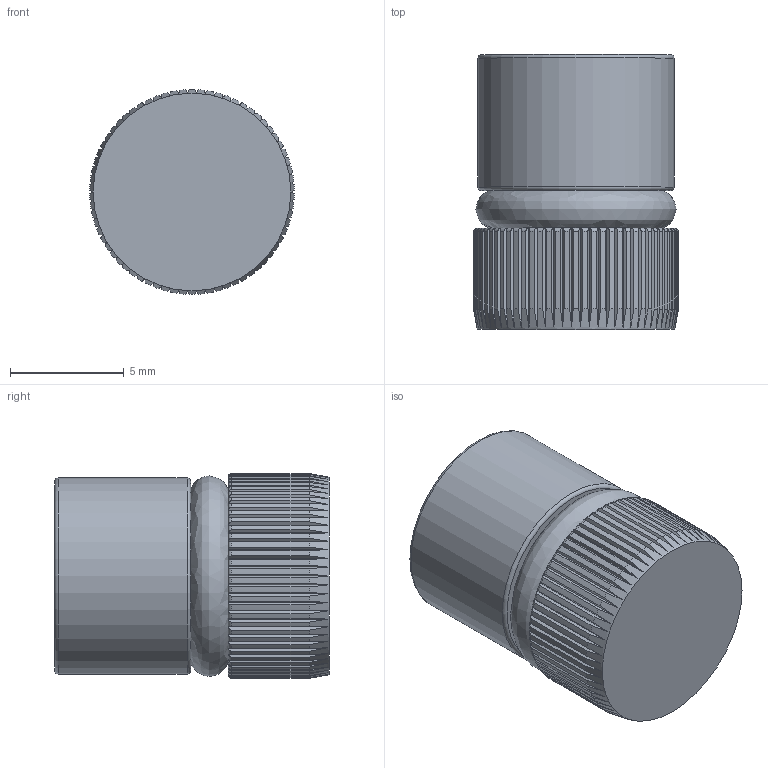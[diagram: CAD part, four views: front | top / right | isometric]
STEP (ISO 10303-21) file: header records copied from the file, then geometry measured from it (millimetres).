
FILE_DESCRIPTION(/* description */ (''),/* implementation_level */ '2;1');
FILE_NAME(/* name */ 'C:/Users/drich/Desktop/BTP-10 v1.step',/* time_stamp */ '2020-01-08T16:05:21-06:00',/* author */ (''),/* organization */ (''),/* preprocessor_version */ 'ST-DEVELOPER v18',/* originating_system */ 'Autodesk Translation Framework v8.12.0.6',/* authorisation */ '');
FILE_SCHEMA (('AUTOMOTIVE_DESIGN { 1 0 10303 214 3 1 1 }'));
Length unit declared in the file: inch
Products named in the file (1): BTP-10
Bounding box: 8.99 x 12.06 x 8.99 mm (x, y, z)
Volume: 707.7 mm3; surface area: 818.9 mm2
Topology: 3 solids, 3 shells, 237 faces, 694 edges, 465 vertices
Faces by surface type: plane 154, cylinder 72, torus 5, cone 3, bspline 3
Full cylindrical faces by diameter (mm): 4.572 x1, 8.611 x1
Entity records: 8877 total; most frequent: CARTESIAN_POINT 3067, ORIENTED_EDGE 1384, DIRECTION 1061, EDGE_CURVE 692, VERTEX_POINT 465, AXIS2_PLACEMENT_3D 414, EDGE_LOOP 243, FACE_OUTER_BOUND 237
